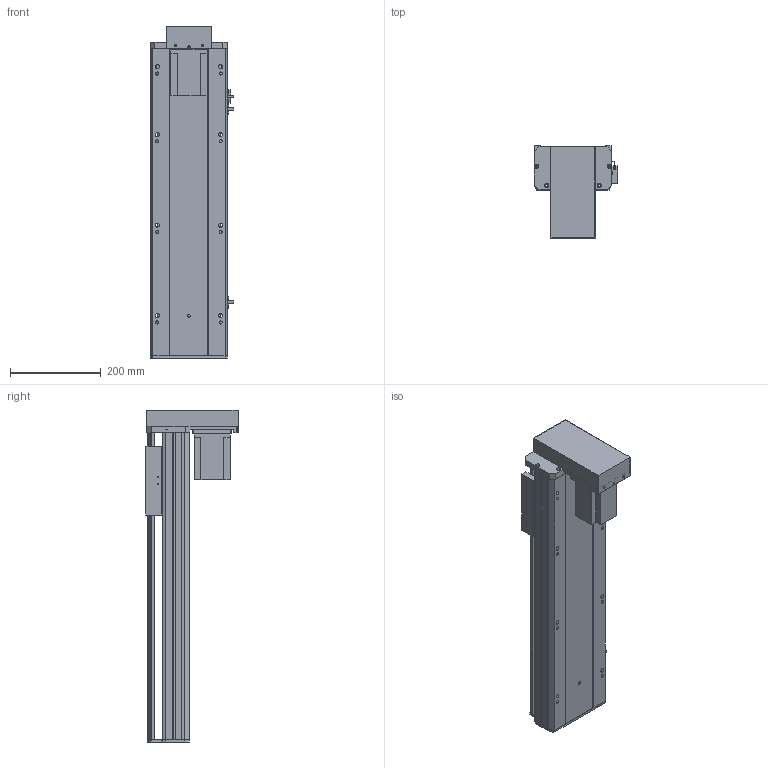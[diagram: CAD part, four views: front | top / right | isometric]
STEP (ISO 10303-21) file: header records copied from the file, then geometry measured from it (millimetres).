
FILE_DESCRIPTION (( 'STEP AP203' ), '1' );
FILE_NAME ('Y170-D10-S450-BM-P750W.STEP', '2020-01-22T02:56:13', ( '微软用户' ), ( '微软中国' ), 'SwSTEP 2.0', 'SolidWorks 2017', '' );
FILE_SCHEMA (( 'CONFIG_CONTROL_DESIGN' ));
Length unit declared in the file: millimetre
Products named in the file (12): YD-Y100-135-新外置传感挡片(通用）; 170--掛极-BR; Y100-135俋离換覜ん; 侂狟750W; Y170-D10-S450-BM-P750W; EGH20賑輸_蕼偞; Y雄赽釱-耜蚾; Y170-陔遴奻裔-BR; 170-BM耜蚾蟀諉啣; Y170-BM--P750W楊擘啣; -BM俋袗; Y170耜裔--準---
Assembly tree (14 placements, depth 2):
  Y170-D10-S450-BM-P750W
    Y170耜裔--準---
    170--掛极-BR
    侂狟750W
    EGH20賑輸_蕼偞  x2
    Y雄赽釱-耜蚾
    Y170-陔遴奻裔-BR
    170-BM耜蚾蟀諉啣
    Y170-BM--P750W楊擘啣
    -BM俋袗
    YD-Y100-135-新外置传感挡片(通用）
    Y100-135俋离換覜ん  x3
Bounding box: 183.5 x 203.5 x 733.5 mm (x, y, z)
Volume: 4012624.4 mm3; surface area: 1318813.1 mm2
Topology: 14 solids, 14 shells, 882 faces, 2460 edges, 1622 vertices
Faces by surface type: plane 436, cylinder 430, cone 16
Entity records: 27546 total; most frequent: CARTESIAN_POINT 4767, DIRECTION 4584, ORIENTED_EDGE 4416, EDGE_CURVE 2208, AXIS2_PLACEMENT_3D 1619, VERTEX_POINT 1466, LINE 1346, VECTOR 1346
